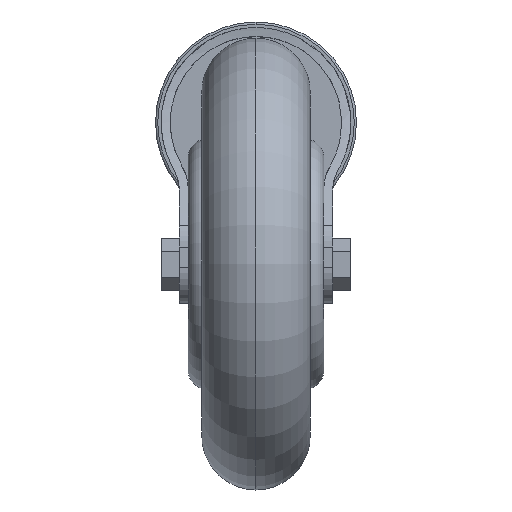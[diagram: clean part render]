
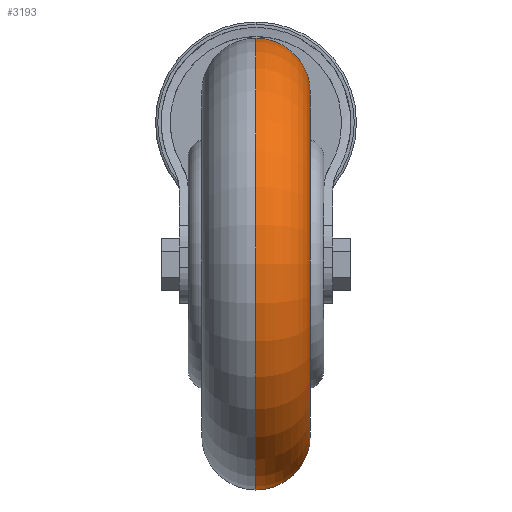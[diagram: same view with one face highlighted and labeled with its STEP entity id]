
A CAD part, front view. The second image highlights one B-rep face of the part: STEP entity #3193.
In plain terms, the highlighted toroidal (fillet/blend) face has major radius 38 mm and minor radius 12 mm.
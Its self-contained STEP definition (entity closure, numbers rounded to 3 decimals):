
#252 = CARTESIAN_POINT ( 'NONE',  ( 0., -83., 6.667 ) ) ;
#282 = AXIS2_PLACEMENT_3D ( 'NONE', #3154, #924, #3439 ) ;
#296 = EDGE_CURVE ( 'NONE', #2732, #2373, #796, .T. ) ;
#418 = CARTESIAN_POINT ( 'NONE',  ( 12., -83., -69.333 ) ) ;
#544 = CARTESIAN_POINT ( 'NONE',  ( 0., -83., -31.333 ) ) ;
#564 = ORIENTED_EDGE ( 'NONE', *, *, #776, .F. ) ;
#620 = ORIENTED_EDGE ( 'NONE', *, *, #296, .F. ) ;
#759 = ORIENTED_EDGE ( 'NONE', *, *, #1796, .T. ) ;
#776 = EDGE_CURVE ( 'NONE', #2373, #1107, #2608, .T. ) ;
#786 = ORIENTED_EDGE ( 'NONE', *, *, #2838, .F. ) ;
#796 = CIRCLE ( 'NONE', #2958, 12. ) ;
#816 = DIRECTION ( 'NONE',  ( 0., 0., -1. ) ) ;
#924 = DIRECTION ( 'NONE',  ( 0., -1., 0. ) ) ;
#1107 = VERTEX_POINT ( 'NONE', #418 ) ;
#1242 = CARTESIAN_POINT ( 'NONE',  ( 0., -83., -31.333 ) ) ;
#1328 = CARTESIAN_POINT ( 'NONE',  ( 12., -83., -31.333 ) ) ;
#1473 = CARTESIAN_POINT ( 'NONE',  ( 0., -83., -81.333 ) ) ;
#1518 = AXIS2_PLACEMENT_3D ( 'NONE', #544, #3026, #816 ) ;
#1586 = CARTESIAN_POINT ( 'NONE',  ( 0., -83., 18.667 ) ) ;
#1587 = DIRECTION ( 'NONE',  ( 1., 0., 0. ) ) ;
#1796 = EDGE_CURVE ( 'NONE', #2507, #1107, #1823, .T. ) ;
#1823 = CIRCLE ( 'NONE', #282, 12. ) ;
#1894 = CIRCLE ( 'NONE', #1518, 50. ) ;
#2226 = EDGE_LOOP ( 'NONE', ( #620, #786, #759, #564 ) ) ;
#2234 = TOROIDAL_SURFACE ( 'NONE', #2598, 38., 12. ) ;
#2373 = VERTEX_POINT ( 'NONE', #2750 ) ;
#2382 = DIRECTION ( 'NONE',  ( 0., 0., -1. ) ) ;
#2507 = VERTEX_POINT ( 'NONE', #1473 ) ;
#2598 = AXIS2_PLACEMENT_3D ( 'NONE', #1242, #3208, #2382 ) ;
#2608 = CIRCLE ( 'NONE', #2977, 38. ) ;
#2675 = DIRECTION ( 'NONE',  ( 0., 0., -1. ) ) ;
#2698 = FACE_OUTER_BOUND ( 'NONE', #2226, .T. ) ;
#2732 = VERTEX_POINT ( 'NONE', #1586 ) ;
#2750 = CARTESIAN_POINT ( 'NONE',  ( 12., -83., 6.667 ) ) ;
#2838 = EDGE_CURVE ( 'NONE', #2507, #2732, #1894, .T. ) ;
#2958 = AXIS2_PLACEMENT_3D ( 'NONE', #252, #3497, #3234 ) ;
#2977 = AXIS2_PLACEMENT_3D ( 'NONE', #1328, #1587, #2675 ) ;
#3026 = DIRECTION ( 'NONE',  ( -1., 0., 0. ) ) ;
#3154 = CARTESIAN_POINT ( 'NONE',  ( 0., -83., -69.333 ) ) ;
#3193 = ADVANCED_FACE ( 'NONE', ( #2698 ), #2234, .T. ) ;
#3208 = DIRECTION ( 'NONE',  ( 1., 0., 0. ) ) ;
#3234 = DIRECTION ( 'NONE',  ( 0., 0., 1. ) ) ;
#3439 = DIRECTION ( 'NONE',  ( 0., 0., -1. ) ) ;
#3497 = DIRECTION ( 'NONE',  ( 0., 1., 0. ) ) ;
